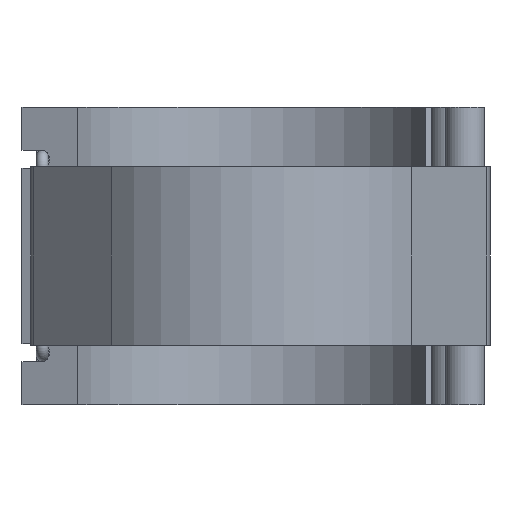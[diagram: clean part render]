
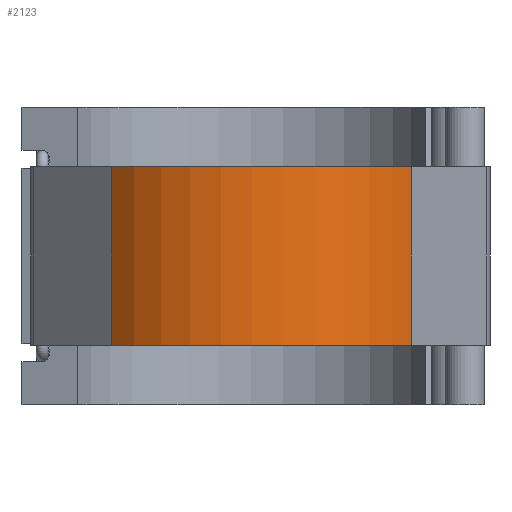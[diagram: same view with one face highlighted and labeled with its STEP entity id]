
A CAD part, front view. The second image highlights one B-rep face of the part: STEP entity #2123.
In plain terms, the highlighted cylindrical face has radius 112.63 mm (diameter 225.261 mm), a partial arc.
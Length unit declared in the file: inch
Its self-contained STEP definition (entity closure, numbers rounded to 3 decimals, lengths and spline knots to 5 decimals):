
#70=CYLINDRICAL_SURFACE('',#2319,4.43427);
#122=CIRCLE('',#2230,4.43427);
#131=CIRCLE('',#2240,4.43427);
#272=FACE_OUTER_BOUND('',#400,.T.);
#400=EDGE_LOOP('',(#1650,#1651,#1652,#1653));
#594=LINE('',#3458,#775);
#595=LINE('',#3460,#776);
#775=VECTOR('',#2754,0.3937);
#776=VECTOR('',#2757,0.3937);
#866=VERTEX_POINT('',#3150);
#867=VERTEX_POINT('',#3152);
#882=VERTEX_POINT('',#3184);
#883=VERTEX_POINT('',#3186);
#1072=EDGE_CURVE('',#866,#867,#122,.T.);
#1089=EDGE_CURVE('',#882,#883,#131,.T.);
#1215=EDGE_CURVE('',#866,#883,#594,.T.);
#1216=EDGE_CURVE('',#867,#882,#595,.T.);
#1650=ORIENTED_EDGE('',*,*,#1215,.T.);
#1651=ORIENTED_EDGE('',*,*,#1089,.F.);
#1652=ORIENTED_EDGE('',*,*,#1216,.F.);
#1653=ORIENTED_EDGE('',*,*,#1072,.F.);
#2123=ADVANCED_FACE('',(#272),#70,.T.);
#2230=AXIS2_PLACEMENT_3D('',#3153,#2485,#2486);
#2240=AXIS2_PLACEMENT_3D('',#3187,#2513,#2514);
#2319=AXIS2_PLACEMENT_3D('',#3459,#2755,#2756);
#2485=DIRECTION('center_axis',(0.,0.,-1.));
#2486=DIRECTION('ref_axis',(0.992,0.126,0.));
#2513=DIRECTION('center_axis',(0.,0.,1.));
#2514=DIRECTION('ref_axis',(0.992,0.126,0.));
#2754=DIRECTION('',(0.,0.,1.));
#2755=DIRECTION('center_axis',(0.,0.,1.));
#2756=DIRECTION('ref_axis',(0.992,0.126,0.));
#2757=DIRECTION('',(0.,0.,1.));
#3150=CARTESIAN_POINT('',(3.73498,-2.39012,-2.079));
#3152=CARTESIAN_POINT('',(-3.26201,-3.00367,-2.079));
#3153=CARTESIAN_POINT('Origin',(0.,0.,-2.079));
#3184=CARTESIAN_POINT('',(-3.26201,-3.00367,2.079));
#3186=CARTESIAN_POINT('',(3.73498,-2.39012,2.079));
#3187=CARTESIAN_POINT('Origin',(0.,0.,2.079));
#3458=CARTESIAN_POINT('',(3.73498,-2.39012,0.));
#3459=CARTESIAN_POINT('Origin',(0.,0.,0.));
#3460=CARTESIAN_POINT('',(-3.26201,-3.00367,0.));
